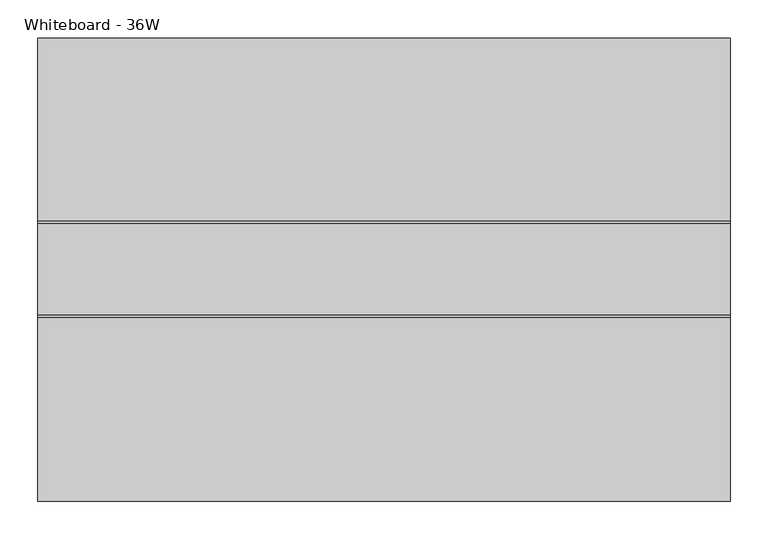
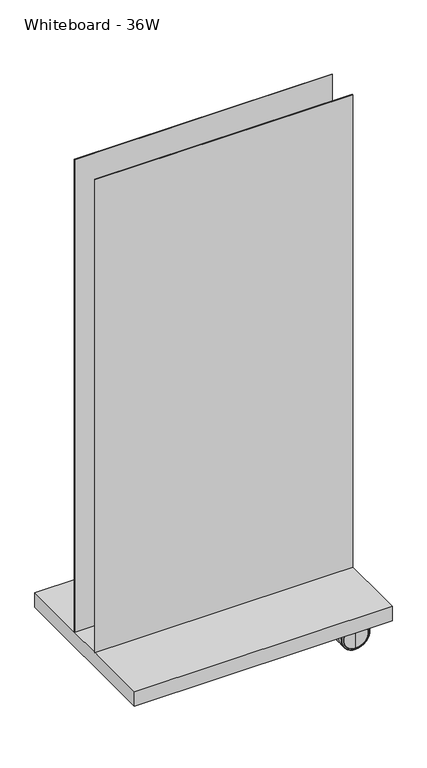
"""IFC4 building model written with IfcOpenShell, lengths in millimetres: furniture geometry, Steelcase Coalesse - Exponents - Storage - Mobile Display Board : Whiteboard - 36W."""

from ifc_helpers import new_model, si_unit, point, frame, frame_2d, origin, place, context, project, spatial, polyline, circle_curve, ellipse_curve, trimmed, segment, composite_curve, outline, extrude, faceted_brep, source, transform, mapped, element, save
from ifc_brep_helpers import plane_surface, cylinder_surface, revolved_surface, advanced_brep


def whiteboard_36w_4263d8d1(model_context):
    return source(origin(), model_context, "Body", "SolidModel", [
        extrude(outline(polyline([(914.4, 231.2568925), (0.0, 231.2568925), (0.0, 233.7968925), (914.4, 233.7968925), (914.4, 231.2568925)])), frame((0.0, 0.0, 155.2702), z_axis=(0.0, 0.0, 1.0), x_axis=(1.0, 0.0, 0.0)), (0.0, 0.0, 1.0), 1773.428),
        extrude(outline(polyline([(914.4, 109.3368683), (914.4, 106.7968683), (0.0, 106.7968683), (0.0, 109.3368683), (914.4, 109.3368683)])), frame((0.0, 0.0, 155.2702), z_axis=(0.0, 0.0, 1.0), x_axis=(1.0, 0.0, 0.0)), (0.0, 0.0, 1.0), 1773.428),
        advanced_brep(
        [(812.799997, -28.9699484, 93.7248565), (812.799997, -28.9699484, 7.16417), (812.799997, -28.9699484, 50.4445132), (812.799997, -29.195866, 95.950615), (812.799997, -29.195866, 4.9384115), (812.799997, -31.890984, 99.0695917), (812.799997, -31.890984, 1.8194348), (812.799997, -31.890984, 100.8890265), (812.799997, -31.890984, 0.0), (812.799997, -47.5881484, 100.8890265), (812.799997, -47.5881484, 0.0), (812.799997, -47.5881484, 67.9452274), (812.799997, -47.5881484, 32.943799), (812.799997, -51.5441984, 67.9452274), (812.799997, -51.5441984, 32.943799), (812.799997, -51.5441984, 50.4445132)],
        [
            (0, 1, circle_curve(frame((812.799997, -28.9699484, 50.4445132), z_axis=(0.0, 1.0, 0.0), x_axis=(0.0, 0.0, -1.0)), 43.2803433)),
            (1, 2),
            (2, 0),
            (1, 0, circle_curve(frame((812.799997, -28.9699484, 50.4445132), z_axis=(0.0, 1.0, 0.0), x_axis=(0.0, 0.0, -1.0)), 43.2803433)),
            (3, 4, circle_curve(frame((812.799997, -29.195866, 50.4445132), z_axis=(0.0, 1.0, 0.0), x_axis=(0.0, 0.0, -1.0)), 45.5061018)),
            (4, 1, circle_curve(frame((812.799997, -40.0470836, 7.16417), z_axis=(1.0, 0.0, 0.0), x_axis=(0.0, 1.0, 0.0)), 11.0771352)),
            (0, 3, circle_curve(frame((812.799997, -40.0470836, 93.7248565), z_axis=(1.0, 0.0, 0.0), x_axis=(0.0, 1.0, 0.0)), 11.0771352)),
            (4, 3, circle_curve(frame((812.799997, -29.195866, 50.4445132), z_axis=(0.0, 1.0, 0.0), x_axis=(0.0, 0.0, -1.0)), 45.5061018)),
            (5, 6, circle_curve(frame((812.799997, -31.890984, 50.4445132), z_axis=(0.0, 1.0, 0.0), x_axis=(0.0, 0.0, -1.0)), 48.6250784)),
            (6, 4, circle_curve(frame((812.799997, -33.3293578, 5.7862568), z_axis=(1.0, 0.0, 0.0), x_axis=(0.0, 1.0, 0.0)), 4.2195493)),
            (3, 5, circle_curve(frame((812.799997, -33.3293578, 95.1027696), z_axis=(1.0, 0.0, 0.0), x_axis=(0.0, 1.0, 0.0)), 4.2195493)),
            (6, 5, circle_curve(frame((812.799997, -31.890984, 50.4445132), z_axis=(0.0, 1.0, 0.0), x_axis=(0.0, 0.0, -1.0)), 48.6250784)),
            (7, 8, circle_curve(frame((812.799997, -31.890984, 50.4445132), z_axis=(0.0, 1.0, 0.0), x_axis=(0.0, 0.0, -1.0)), 50.4445132)),
            (8, 6),
            (5, 7),
            (8, 7, circle_curve(frame((812.799997, -31.890984, 50.4445132), z_axis=(0.0, 1.0, 0.0), x_axis=(0.0, 0.0, -1.0)), 50.4445132)),
            (9, 10, circle_curve(frame((812.799997, -47.5881484, 50.4445132), z_axis=(0.0, 1.0, 0.0), x_axis=(0.0, 0.0, -1.0)), 50.4445132)),
            (10, 8),
            (7, 9),
            (10, 9, circle_curve(frame((812.799997, -47.5881484, 50.4445132), z_axis=(0.0, 1.0, 0.0), x_axis=(0.0, 0.0, -1.0)), 50.4445132)),
            (11, 12, circle_curve(frame((812.799997, -47.5881484, 50.4445132), z_axis=(0.0, 1.0, 0.0), x_axis=(0.0, 0.0, -1.0)), 17.5007142)),
            (12, 10),
            (9, 11),
            (12, 11, circle_curve(frame((812.799997, -47.5881484, 50.4445132), z_axis=(0.0, 1.0, 0.0), x_axis=(0.0, 0.0, -1.0)), 17.5007142)),
            (13, 14, circle_curve(frame((812.799997, -51.5441984, 50.4445132), z_axis=(0.0, 1.0, 0.0), x_axis=(0.0, 0.0, -1.0)), 17.5007142)),
            (14, 12),
            (11, 13),
            (14, 13, circle_curve(frame((812.799997, -51.5441984, 50.4445132), z_axis=(0.0, 1.0, 0.0), x_axis=(0.0, 0.0, -1.0)), 17.5007142)),
            (15, 14),
            (13, 15),
        ],
        [
            plane_surface(frame((812.799997, -28.9699484, 50.4445132), z_axis=(0.0, 1.0, 0.0), x_axis=(0.0, 0.0, -1.0))),
            revolved_surface(trimmed(ellipse_curve(frame((812.799997, -40.0470836, 7.16417), z_axis=(-1.0, 0.0, 0.0), x_axis=(0.0, 1.0, 0.0)), 11.0771352, 11.0771352), [point((812.799997, -28.9699484, 7.16417))], [point((812.799997, -29.195866, 4.9384115))], True, "CARTESIAN"), (812.799997, -32.3354484, 50.4445132), (0.0, -1.0, 0.0)),
            revolved_surface(trimmed(ellipse_curve(frame((812.799997, -33.3293578, 5.7862568), z_axis=(-1.0, 0.0, 0.0), x_axis=(0.0, 1.0, 0.0)), 4.2195493, 4.2195493), [point((812.799997, -29.195866, 4.9384115))], [point((812.799997, -31.890984, 1.8194348))], True, "CARTESIAN"), (812.799997, -32.3354484, 50.4445132), (0.0, -1.0, 0.0)),
            plane_surface(frame((812.799997, -31.890984, 50.4445132), z_axis=(0.0, 1.0, 0.0), x_axis=(0.0, 0.0, -1.0))),
            cylinder_surface(frame((812.799997, -32.3354484, 50.4445132), z_axis=(0.0, -1.0, 0.0), x_axis=(0.0, 0.0, -1.0)), 50.4445132),
            plane_surface(frame((812.799997, -47.5881484, 50.4445132), z_axis=(0.0, -1.0, 0.0), x_axis=(0.0, 0.0, -1.0))),
            cylinder_surface(frame((812.799997, -32.3354484, 50.4445132), z_axis=(0.0, -1.0, 0.0), x_axis=(0.0, 0.0, -1.0)), 17.5007142),
            plane_surface(frame((812.799997, -51.5441984, 50.4445132), z_axis=(0.0, -1.0, 0.0), x_axis=(0.0, 0.0, -1.0))),
        ],
        [
            (0, [[1, 2, 3]]),
            (0, [[4, -3, -2]]),
            (1, [[5, 6, -1, 7]]),
            (1, [[8, -7, -4, -6]]),
            (2, [[9, 10, -5, 11]]),
            (2, [[12, -11, -8, -10]]),
            (3, [[13, 14, -9, 15]]),
            (3, [[16, -15, -12, -14]]),
            (4, [[17, 18, -13, 19]]),
            (4, [[20, -19, -16, -18]]),
            (5, [[21, 22, -17, 23]]),
            (5, [[24, -23, -20, -22]]),
            (6, [[25, 26, -21, 27]]),
            (6, [[28, -27, -24, -26]]),
            (7, [[29, -25, 30]]),
            (7, [[-30, -28, -29]]),
        ],
    ),
        extrude(outline(composite_curve([segment(polyline([(51.3715027, 843.0132923), (28.4632097, 843.0132923)]), True, "CONTINUOUS"), segment(trimmed(circle_curve(frame_2d((55.7451933, 810.6082185)), 42.360305), [point((28.4632097, 843.0132923))], [point((92.46506, 831.7280393))], False, "CARTESIAN"), True, "CONTINUOUS"), segment(trimmed(circle_curve(frame_2d((52.6047711, 812.6750938)), 44.1798299), [point((92.46506, 831.7280393))], [point((51.3715027, 768.5124804))], False, "CARTESIAN"), True, "CONTINUOUS"), segment(polyline([(51.3715027, 768.5124804), (51.3715027, 843.0132923)]), True, "CONTINUOUS")], self_intersect=False)), frame((0.0, -71.1936132, 0.0), z_axis=(0.0, 1.0, 0.0), x_axis=(0.0, 0.0, 1.0)), (0.0, 0.0, 1.0), 23.6054648),
        extrude(outline(composite_curve([segment(trimmed(circle_curve(frame_2d((798.4846799, -59.3908808)), 7.6088517), [point((798.4846799, -51.7820291))], [point((798.4846799, -66.9997325))], False, "CARTESIAN"), True, "CONTINUOUS"), segment(trimmed(circle_curve(frame_2d((798.4846799, -59.3908808)), 7.6088517), [point((798.4846799, -66.9997325))], [point((798.4846799, -51.7820291))], False, "CARTESIAN"), True, "CONTINUOUS")], self_intersect=False)), frame((0.0, 0.0, 71.2879049), z_axis=(0.0, 0.0, 1.0), x_axis=(1.0, 0.0, 0.0)), (0.0, 0.0, 1.0), 48.3206977),
        extrude(outline(polyline([(826.1222923, -86.9387325), (771.0042923, -86.9387325), (771.0042923, -31.8207325), (826.1222923, -31.8207325), (826.1222923, -86.9387325)])), frame((0.0, 0.0, 119.6086027), z_axis=(0.0, 0.0, 1.0), x_axis=(1.0, 0.0, 0.0)), (0.0, 0.0, 1.0), 3.302),
        advanced_brep(
        [(812.799997, -67.2375632, 67.9452274), (812.799997, -67.2375632, 32.943799), (812.799997, -67.2375632, 50.4445132), (812.799997, -71.1936132, 67.9452274), (812.799997, -71.1936132, 32.943799), (812.799997, -71.1936132, 100.8890265), (812.799997, -71.1936132, 0.0), (812.799997, -86.8907776, 100.8890265), (812.799997, -86.8907776, 0.0), (812.799997, -86.8907776, 99.0695917), (812.799997, -86.8907776, 1.8194348), (812.799997, -89.5858956, 95.950615), (812.799997, -89.5858956, 4.9384115), (812.799997, -89.8118132, 93.7248565), (812.799997, -89.8118132, 7.16417), (812.799997, -89.8118132, 50.4445132)],
        [
            (0, 1, circle_curve(frame((812.799997, -67.2375632, 50.4445132), z_axis=(0.0, 1.0, 0.0), x_axis=(0.0, 0.0, -1.0)), 17.5007142)),
            (1, 2),
            (2, 0),
            (1, 0, circle_curve(frame((812.799997, -67.2375632, 50.4445132), z_axis=(0.0, 1.0, 0.0), x_axis=(0.0, 0.0, -1.0)), 17.5007142)),
            (3, 4, circle_curve(frame((812.799997, -71.1936132, 50.4445132), z_axis=(0.0, 1.0, 0.0), x_axis=(0.0, 0.0, -1.0)), 17.5007142)),
            (4, 1),
            (0, 3),
            (4, 3, circle_curve(frame((812.799997, -71.1936132, 50.4445132), z_axis=(0.0, 1.0, 0.0), x_axis=(0.0, 0.0, -1.0)), 17.5007142)),
            (5, 6, circle_curve(frame((812.799997, -71.1936132, 50.4445132), z_axis=(0.0, 1.0, 0.0), x_axis=(0.0, 0.0, -1.0)), 50.4445132)),
            (6, 4),
            (3, 5),
            (6, 5, circle_curve(frame((812.799997, -71.1936132, 50.4445132), z_axis=(0.0, 1.0, 0.0), x_axis=(0.0, 0.0, -1.0)), 50.4445132)),
            (7, 8, circle_curve(frame((812.799997, -86.8907776, 50.4445132), z_axis=(0.0, 1.0, 0.0), x_axis=(0.0, 0.0, -1.0)), 50.4445132)),
            (8, 6),
            (5, 7),
            (8, 7, circle_curve(frame((812.799997, -86.8907776, 50.4445132), z_axis=(0.0, 1.0, 0.0), x_axis=(0.0, 0.0, -1.0)), 50.4445132)),
            (9, 10, circle_curve(frame((812.799997, -86.8907776, 50.4445132), z_axis=(0.0, 1.0, 0.0), x_axis=(0.0, 0.0, -1.0)), 48.6250784)),
            (10, 8),
            (7, 9),
            (10, 9, circle_curve(frame((812.799997, -86.8907776, 50.4445132), z_axis=(0.0, 1.0, 0.0), x_axis=(0.0, 0.0, -1.0)), 48.6250784)),
            (11, 12, circle_curve(frame((812.799997, -89.5858956, 50.4445132), z_axis=(0.0, 1.0, 0.0), x_axis=(0.0, 0.0, -1.0)), 45.5061018)),
            (12, 10, circle_curve(frame((812.799997, -85.4524038, 5.7862568), z_axis=(1.0, 0.0, 0.0), x_axis=(0.0, 1.0, 0.0)), 4.2195493)),
            (9, 11, circle_curve(frame((812.799997, -85.4524038, 95.1027696), z_axis=(1.0, 0.0, 0.0), x_axis=(0.0, 1.0, 0.0)), 4.2195493)),
            (12, 11, circle_curve(frame((812.799997, -89.5858956, 50.4445132), z_axis=(0.0, 1.0, 0.0), x_axis=(0.0, 0.0, -1.0)), 45.5061018)),
            (13, 14, circle_curve(frame((812.799997, -89.8118132, 50.4445132), z_axis=(0.0, 1.0, 0.0), x_axis=(0.0, 0.0, -1.0)), 43.2803433)),
            (14, 12, circle_curve(frame((812.799997, -78.734678, 7.16417), z_axis=(1.0, 0.0, 0.0), x_axis=(0.0, 1.0, 0.0)), 11.0771352)),
            (11, 13, circle_curve(frame((812.799997, -78.734678, 93.7248565), z_axis=(1.0, 0.0, 0.0), x_axis=(0.0, 1.0, 0.0)), 11.0771352)),
            (14, 13, circle_curve(frame((812.799997, -89.8118132, 50.4445132), z_axis=(0.0, 1.0, 0.0), x_axis=(0.0, 0.0, -1.0)), 43.2803433)),
            (15, 14),
            (13, 15),
        ],
        [
            plane_surface(frame((812.799997, -67.2375632, 50.4445132), z_axis=(0.0, 1.0, 0.0), x_axis=(0.0, 0.0, -1.0))),
            cylinder_surface(frame((812.799997, -86.4463132, 50.4445132), z_axis=(0.0, -1.0, 0.0), x_axis=(0.0, 0.0, -1.0)), 17.5007142),
            plane_surface(frame((812.799997, -71.1936132, 50.4445132), z_axis=(0.0, 1.0, 0.0), x_axis=(0.0, 0.0, -1.0))),
            cylinder_surface(frame((812.799997, -86.4463132, 50.4445132), z_axis=(0.0, -1.0, 0.0), x_axis=(0.0, 0.0, -1.0)), 50.4445132),
            plane_surface(frame((812.799997, -86.8907776, 50.4445132), z_axis=(0.0, -1.0, 0.0), x_axis=(0.0, 0.0, -1.0))),
            revolved_surface(trimmed(ellipse_curve(frame((812.799997, -85.4524038, 5.7862568), z_axis=(-1.0, 0.0, 0.0), x_axis=(0.0, 1.0, 0.0)), 4.2195493, 4.2195493), [point((812.799997, -86.8907776, 1.8194348))], [point((812.799997, -89.5858956, 4.9384115))], True, "CARTESIAN"), (812.799997, -86.4463132, 50.4445132), (0.0, -1.0, 0.0)),
            revolved_surface(trimmed(ellipse_curve(frame((812.799997, -78.734678, 7.16417), z_axis=(-1.0, 0.0, 0.0), x_axis=(0.0, 1.0, 0.0)), 11.0771352, 11.0771352), [point((812.799997, -89.5858956, 4.9384115))], [point((812.799997, -89.8118132, 7.16417))], True, "CARTESIAN"), (812.799997, -86.4463132, 50.4445132), (0.0, -1.0, 0.0)),
            plane_surface(frame((812.799997, -89.8118132, 50.4445132), z_axis=(0.0, -1.0, 0.0), x_axis=(0.0, 0.0, -1.0))),
        ],
        [
            (0, [[1, 2, 3]]),
            (0, [[4, -3, -2]]),
            (1, [[5, 6, -1, 7]]),
            (1, [[8, -7, -4, -6]]),
            (2, [[9, 10, -5, 11]]),
            (2, [[12, -11, -8, -10]]),
            (3, [[13, 14, -9, 15]]),
            (3, [[16, -15, -12, -14]]),
            (4, [[17, 18, -13, 19]]),
            (4, [[20, -19, -16, -18]]),
            (5, [[21, 22, -17, 23]]),
            (5, [[24, -23, -20, -22]]),
            (6, [[25, 26, -21, 27]]),
            (6, [[28, -27, -24, -26]]),
            (7, [[29, -25, 30]]),
            (7, [[-30, -28, -29]]),
        ],
    ),
        advanced_brep(
        [(812.799997, 392.1379592, 67.9452274), (812.799997, 392.1379592, 32.943799), (812.799997, 392.1379592, 50.4445132), (812.799997, 388.1819092, 67.9452274), (812.799997, 388.1819092, 32.943799), (812.799997, 388.1819092, 100.8890265), (812.799997, 388.1819092, 0.0), (812.799997, 372.4847448, 100.8890265), (812.799997, 372.4847448, 0.0), (812.799997, 372.4847448, 99.0695917), (812.799997, 372.4847448, 1.8194348), (812.799997, 369.7896268, 95.950615), (812.799997, 369.7896268, 4.9384115), (812.799997, 369.5637092, 93.7248565), (812.799997, 369.5637092, 7.16417), (812.799997, 369.5637092, 50.4445132)],
        [
            (0, 1, circle_curve(frame((812.799997, 392.1379592, 50.4445132), z_axis=(0.0, 1.0, 0.0), x_axis=(0.0, 0.0, -1.0)), 17.5007142)),
            (1, 2),
            (2, 0),
            (1, 0, circle_curve(frame((812.799997, 392.1379592, 50.4445132), z_axis=(0.0, 1.0, 0.0), x_axis=(0.0, 0.0, -1.0)), 17.5007142)),
            (3, 4, circle_curve(frame((812.799997, 388.1819092, 50.4445132), z_axis=(0.0, 1.0, 0.0), x_axis=(0.0, 0.0, -1.0)), 17.5007142)),
            (4, 1),
            (0, 3),
            (4, 3, circle_curve(frame((812.799997, 388.1819092, 50.4445132), z_axis=(0.0, 1.0, 0.0), x_axis=(0.0, 0.0, -1.0)), 17.5007142)),
            (5, 6, circle_curve(frame((812.799997, 388.1819092, 50.4445132), z_axis=(0.0, 1.0, 0.0), x_axis=(0.0, 0.0, -1.0)), 50.4445132)),
            (6, 4),
            (3, 5),
            (6, 5, circle_curve(frame((812.799997, 388.1819092, 50.4445132), z_axis=(0.0, 1.0, 0.0), x_axis=(0.0, 0.0, -1.0)), 50.4445132)),
            (7, 8, circle_curve(frame((812.799997, 372.4847448, 50.4445132), z_axis=(0.0, 1.0, 0.0), x_axis=(0.0, 0.0, -1.0)), 50.4445132)),
            (8, 6),
            (5, 7),
            (8, 7, circle_curve(frame((812.799997, 372.4847448, 50.4445132), z_axis=(0.0, 1.0, 0.0), x_axis=(0.0, 0.0, -1.0)), 50.4445132)),
            (9, 10, circle_curve(frame((812.799997, 372.4847448, 50.4445132), z_axis=(0.0, 1.0, 0.0), x_axis=(0.0, 0.0, -1.0)), 48.6250784)),
            (10, 8),
            (7, 9),
            (10, 9, circle_curve(frame((812.799997, 372.4847448, 50.4445132), z_axis=(0.0, 1.0, 0.0), x_axis=(0.0, 0.0, -1.0)), 48.6250784)),
            (11, 12, circle_curve(frame((812.799997, 369.7896268, 50.4445132), z_axis=(0.0, 1.0, 0.0), x_axis=(0.0, 0.0, -1.0)), 45.5061018)),
            (12, 10, circle_curve(frame((812.799997, 373.9231187, 5.7862568), z_axis=(1.0, 0.0, 0.0), x_axis=(0.0, 1.0, 0.0)), 4.2195493)),
            (9, 11, circle_curve(frame((812.799997, 373.9231187, 95.1027696), z_axis=(1.0, 0.0, 0.0), x_axis=(0.0, 1.0, 0.0)), 4.2195493)),
            (12, 11, circle_curve(frame((812.799997, 369.7896268, 50.4445132), z_axis=(0.0, 1.0, 0.0), x_axis=(0.0, 0.0, -1.0)), 45.5061018)),
            (13, 14, circle_curve(frame((812.799997, 369.5637092, 50.4445132), z_axis=(0.0, 1.0, 0.0), x_axis=(0.0, 0.0, -1.0)), 43.2803433)),
            (14, 12, circle_curve(frame((812.799997, 380.6408444, 7.16417), z_axis=(1.0, 0.0, 0.0), x_axis=(0.0, 1.0, 0.0)), 11.0771352)),
            (11, 13, circle_curve(frame((812.799997, 380.6408444, 93.7248565), z_axis=(1.0, 0.0, 0.0), x_axis=(0.0, 1.0, 0.0)), 11.0771352)),
            (14, 13, circle_curve(frame((812.799997, 369.5637092, 50.4445132), z_axis=(0.0, 1.0, 0.0), x_axis=(0.0, 0.0, -1.0)), 43.2803433)),
            (15, 14),
            (13, 15),
        ],
        [
            plane_surface(frame((812.799997, 392.1379592, 50.4445132), z_axis=(0.0, 1.0, 0.0), x_axis=(0.0, 0.0, -1.0))),
            cylinder_surface(frame((812.799997, 372.9292092, 50.4445132), z_axis=(0.0, -1.0, 0.0), x_axis=(0.0, 0.0, -1.0)), 17.5007142),
            plane_surface(frame((812.799997, 388.1819092, 50.4445132), z_axis=(0.0, 1.0, 0.0), x_axis=(0.0, 0.0, -1.0))),
            cylinder_surface(frame((812.799997, 372.9292092, 50.4445132), z_axis=(0.0, -1.0, 0.0), x_axis=(0.0, 0.0, -1.0)), 50.4445132),
            plane_surface(frame((812.799997, 372.4847448, 50.4445132), z_axis=(0.0, -1.0, 0.0), x_axis=(0.0, 0.0, -1.0))),
            revolved_surface(trimmed(ellipse_curve(frame((812.799997, 373.9231187, 5.7862568), z_axis=(-1.0, 0.0, 0.0), x_axis=(0.0, 1.0, 0.0)), 4.2195493, 4.2195493), [point((812.799997, 372.4847448, 1.8194348))], [point((812.799997, 369.7896268, 4.9384115))], True, "CARTESIAN"), (812.799997, 372.9292092, 50.4445132), (0.0, -1.0, 0.0)),
            revolved_surface(trimmed(ellipse_curve(frame((812.799997, 380.6408444, 7.16417), z_axis=(-1.0, 0.0, 0.0), x_axis=(0.0, 1.0, 0.0)), 11.0771352, 11.0771352), [point((812.799997, 369.7896268, 4.9384115))], [point((812.799997, 369.5637092, 7.16417))], True, "CARTESIAN"), (812.799997, 372.9292092, 50.4445132), (0.0, -1.0, 0.0)),
            plane_surface(frame((812.799997, 369.5637092, 50.4445132), z_axis=(0.0, -1.0, 0.0), x_axis=(0.0, 0.0, -1.0))),
        ],
        [
            (0, [[1, 2, 3]]),
            (0, [[4, -3, -2]]),
            (1, [[5, 6, -1, 7]]),
            (1, [[8, -7, -4, -6]]),
            (2, [[9, 10, -5, 11]]),
            (2, [[12, -11, -8, -10]]),
            (3, [[13, 14, -9, 15]]),
            (3, [[16, -15, -12, -14]]),
            (4, [[17, 18, -13, 19]]),
            (4, [[20, -19, -16, -18]]),
            (5, [[21, 22, -17, 23]]),
            (5, [[24, -23, -20, -22]]),
            (6, [[25, 26, -21, 27]]),
            (6, [[28, -27, -24, -26]]),
            (7, [[29, -25, 30]]),
            (7, [[-30, -28, -29]]),
        ],
    ),
        extrude(outline(composite_curve([segment(polyline([(51.3715027, 843.0132923), (28.4632097, 843.0132923)]), True, "CONTINUOUS"), segment(trimmed(circle_curve(frame_2d((55.7451933, 810.6082185)), 42.360305), [point((28.4632097, 843.0132923))], [point((92.46506, 831.7280393))], False, "CARTESIAN"), True, "CONTINUOUS"), segment(trimmed(circle_curve(frame_2d((52.6047711, 812.6750938)), 44.1798299), [point((92.46506, 831.7280393))], [point((51.3715027, 768.5124804))], False, "CARTESIAN"), True, "CONTINUOUS"), segment(polyline([(51.3715027, 768.5124804), (51.3715027, 843.0132923)]), True, "CONTINUOUS")], self_intersect=False)), frame((0.0, 388.1819092, 0.0), z_axis=(0.0, 1.0, 0.0), x_axis=(0.0, 0.0, 1.0)), (0.0, 0.0, 1.0), 23.6054648),
        extrude(outline(composite_curve([segment(trimmed(circle_curve(frame_2d((798.4846799, 399.9846416)), 7.6088517), [point((798.4846799, 392.3757899))], [point((798.4846799, 407.5934933))], False, "CARTESIAN"), True, "CONTINUOUS"), segment(trimmed(circle_curve(frame_2d((798.4846799, 399.9846416)), 7.6088517), [point((798.4846799, 407.5934933))], [point((798.4846799, 392.3757899))], False, "CARTESIAN"), True, "CONTINUOUS")], self_intersect=False)), frame((0.0, 0.0, 71.2879049), z_axis=(0.0, 0.0, 1.0), x_axis=(1.0, 0.0, 0.0)), (0.0, 0.0, 1.0), 48.3206977),
        extrude(outline(polyline([(826.1222923, 427.5324933), (826.1222923, 372.4144933), (771.0042923, 372.4144933), (771.0042923, 427.5324933), (826.1222923, 427.5324933)])), frame((0.0, 0.0, 119.6086027), z_axis=(0.0, 0.0, 1.0), x_axis=(1.0, 0.0, 0.0)), (0.0, 0.0, 1.0), 3.302),
        advanced_brep(
        [(812.799997, 430.405574, 93.7248565), (812.799997, 430.405574, 7.16417), (812.799997, 430.405574, 50.4445132), (812.799997, 430.1796564, 95.950615), (812.799997, 430.1796564, 4.9384115), (812.799997, 427.4845384, 99.0695917), (812.799997, 427.4845384, 1.8194348), (812.799997, 427.4845384, 100.8890265), (812.799997, 427.4845384, 0.0), (812.799997, 411.787374, 100.8890265), (812.799997, 411.787374, 0.0), (812.799997, 411.787374, 67.9452274), (812.799997, 411.787374, 32.943799), (812.799997, 407.831324, 67.9452274), (812.799997, 407.831324, 32.943799), (812.799997, 407.831324, 50.4445132)],
        [
            (0, 1, circle_curve(frame((812.799997, 430.405574, 50.4445132), z_axis=(0.0, 1.0, 0.0), x_axis=(0.0, 0.0, -1.0)), 43.2803433)),
            (1, 2),
            (2, 0),
            (1, 0, circle_curve(frame((812.799997, 430.405574, 50.4445132), z_axis=(0.0, 1.0, 0.0), x_axis=(0.0, 0.0, -1.0)), 43.2803433)),
            (3, 4, circle_curve(frame((812.799997, 430.1796564, 50.4445132), z_axis=(0.0, 1.0, 0.0), x_axis=(0.0, 0.0, -1.0)), 45.5061018)),
            (4, 1, circle_curve(frame((812.799997, 419.3284388, 7.16417), z_axis=(1.0, 0.0, 0.0), x_axis=(0.0, 1.0, 0.0)), 11.0771352)),
            (0, 3, circle_curve(frame((812.799997, 419.3284388, 93.7248565), z_axis=(1.0, 0.0, 0.0), x_axis=(0.0, 1.0, 0.0)), 11.0771352)),
            (4, 3, circle_curve(frame((812.799997, 430.1796564, 50.4445132), z_axis=(0.0, 1.0, 0.0), x_axis=(0.0, 0.0, -1.0)), 45.5061018)),
            (5, 6, circle_curve(frame((812.799997, 427.4845384, 50.4445132), z_axis=(0.0, 1.0, 0.0), x_axis=(0.0, 0.0, -1.0)), 48.6250784)),
            (6, 4, circle_curve(frame((812.799997, 426.0461646, 5.7862568), z_axis=(1.0, 0.0, 0.0), x_axis=(0.0, 1.0, 0.0)), 4.2195493)),
            (3, 5, circle_curve(frame((812.799997, 426.0461646, 95.1027696), z_axis=(1.0, 0.0, 0.0), x_axis=(0.0, 1.0, 0.0)), 4.2195493)),
            (6, 5, circle_curve(frame((812.799997, 427.4845384, 50.4445132), z_axis=(0.0, 1.0, 0.0), x_axis=(0.0, 0.0, -1.0)), 48.6250784)),
            (7, 8, circle_curve(frame((812.799997, 427.4845384, 50.4445132), z_axis=(0.0, 1.0, 0.0), x_axis=(0.0, 0.0, -1.0)), 50.4445132)),
            (8, 6),
            (5, 7),
            (8, 7, circle_curve(frame((812.799997, 427.4845384, 50.4445132), z_axis=(0.0, 1.0, 0.0), x_axis=(0.0, 0.0, -1.0)), 50.4445132)),
            (9, 10, circle_curve(frame((812.799997, 411.787374, 50.4445132), z_axis=(0.0, 1.0, 0.0), x_axis=(0.0, 0.0, -1.0)), 50.4445132)),
            (10, 8),
            (7, 9),
            (10, 9, circle_curve(frame((812.799997, 411.787374, 50.4445132), z_axis=(0.0, 1.0, 0.0), x_axis=(0.0, 0.0, -1.0)), 50.4445132)),
            (11, 12, circle_curve(frame((812.799997, 411.787374, 50.4445132), z_axis=(0.0, 1.0, 0.0), x_axis=(0.0, 0.0, -1.0)), 17.5007142)),
            (12, 10),
            (9, 11),
            (12, 11, circle_curve(frame((812.799997, 411.787374, 50.4445132), z_axis=(0.0, 1.0, 0.0), x_axis=(0.0, 0.0, -1.0)), 17.5007142)),
            (13, 14, circle_curve(frame((812.799997, 407.831324, 50.4445132), z_axis=(0.0, 1.0, 0.0), x_axis=(0.0, 0.0, -1.0)), 17.5007142)),
            (14, 12),
            (11, 13),
            (14, 13, circle_curve(frame((812.799997, 407.831324, 50.4445132), z_axis=(0.0, 1.0, 0.0), x_axis=(0.0, 0.0, -1.0)), 17.5007142)),
            (15, 14),
            (13, 15),
        ],
        [
            plane_surface(frame((812.799997, 430.405574, 50.4445132), z_axis=(0.0, 1.0, 0.0), x_axis=(0.0, 0.0, -1.0))),
            revolved_surface(trimmed(ellipse_curve(frame((812.799997, 419.3284388, 7.16417), z_axis=(-1.0, 0.0, 0.0), x_axis=(0.0, 1.0, 0.0)), 11.0771352, 11.0771352), [point((812.799997, 430.405574, 7.16417))], [point((812.799997, 430.1796564, 4.9384115))], True, "CARTESIAN"), (812.799997, 427.040074, 50.4445132), (0.0, -1.0, 0.0)),
            revolved_surface(trimmed(ellipse_curve(frame((812.799997, 426.0461646, 5.7862568), z_axis=(-1.0, 0.0, 0.0), x_axis=(0.0, 1.0, 0.0)), 4.2195493, 4.2195493), [point((812.799997, 430.1796564, 4.9384115))], [point((812.799997, 427.4845384, 1.8194348))], True, "CARTESIAN"), (812.799997, 427.040074, 50.4445132), (0.0, -1.0, 0.0)),
            plane_surface(frame((812.799997, 427.4845384, 50.4445132), z_axis=(0.0, 1.0, 0.0), x_axis=(0.0, 0.0, -1.0))),
            cylinder_surface(frame((812.799997, 427.040074, 50.4445132), z_axis=(0.0, -1.0, 0.0), x_axis=(0.0, 0.0, -1.0)), 50.4445132),
            plane_surface(frame((812.799997, 411.787374, 50.4445132), z_axis=(0.0, -1.0, 0.0), x_axis=(0.0, 0.0, -1.0))),
            cylinder_surface(frame((812.799997, 427.040074, 50.4445132), z_axis=(0.0, -1.0, 0.0), x_axis=(0.0, 0.0, -1.0)), 17.5007142),
            plane_surface(frame((812.799997, 407.831324, 50.4445132), z_axis=(0.0, -1.0, 0.0), x_axis=(0.0, 0.0, -1.0))),
        ],
        [
            (0, [[1, 2, 3]]),
            (0, [[4, -3, -2]]),
            (1, [[5, 6, -1, 7]]),
            (1, [[8, -7, -4, -6]]),
            (2, [[9, 10, -5, 11]]),
            (2, [[12, -11, -8, -10]]),
            (3, [[13, 14, -9, 15]]),
            (3, [[16, -15, -12, -14]]),
            (4, [[17, 18, -13, 19]]),
            (4, [[20, -19, -16, -18]]),
            (5, [[21, 22, -17, 23]]),
            (5, [[24, -23, -20, -22]]),
            (6, [[25, 26, -21, 27]]),
            (6, [[28, -27, -24, -26]]),
            (7, [[29, -25, 30]]),
            (7, [[-30, -28, -29]]),
        ],
    ),
        advanced_brep(
        [(121.6278984, 392.1379592, 67.9452274), (121.6278984, 392.1379592, 32.943799), (121.6278984, 392.1379592, 50.4445132), (121.6278984, 388.1819092, 67.9452274), (121.6278984, 388.1819092, 32.943799), (121.6278984, 388.1819092, 100.8890265), (121.6278984, 388.1819092, 0.0), (121.6278984, 372.4847448, 100.8890265), (121.6278984, 372.4847448, 0.0), (121.6278984, 372.4847448, 99.0695917), (121.6278984, 372.4847448, 1.8194348), (121.6278984, 369.7896268, 95.950615), (121.6278984, 369.7896268, 4.9384115), (121.6278984, 369.5637092, 93.7248565), (121.6278984, 369.5637092, 7.16417), (121.6278984, 369.5637092, 50.4445132)],
        [
            (0, 1, circle_curve(frame((121.6278984, 392.1379592, 50.4445132), z_axis=(0.0, 1.0, 0.0), x_axis=(0.0, 0.0, -1.0)), 17.5007142)),
            (1, 2),
            (2, 0),
            (1, 0, circle_curve(frame((121.6278984, 392.1379592, 50.4445132), z_axis=(0.0, 1.0, 0.0), x_axis=(0.0, 0.0, -1.0)), 17.5007142)),
            (3, 4, circle_curve(frame((121.6278984, 388.1819092, 50.4445132), z_axis=(0.0, 1.0, 0.0), x_axis=(0.0, 0.0, -1.0)), 17.5007142)),
            (4, 1),
            (0, 3),
            (4, 3, circle_curve(frame((121.6278984, 388.1819092, 50.4445132), z_axis=(0.0, 1.0, 0.0), x_axis=(0.0, 0.0, -1.0)), 17.5007142)),
            (5, 6, circle_curve(frame((121.6278984, 388.1819092, 50.4445132), z_axis=(0.0, 1.0, 0.0), x_axis=(0.0, 0.0, -1.0)), 50.4445132)),
            (6, 4),
            (3, 5),
            (6, 5, circle_curve(frame((121.6278984, 388.1819092, 50.4445132), z_axis=(0.0, 1.0, 0.0), x_axis=(0.0, 0.0, -1.0)), 50.4445132)),
            (7, 8, circle_curve(frame((121.6278984, 372.4847448, 50.4445132), z_axis=(0.0, 1.0, 0.0), x_axis=(0.0, 0.0, -1.0)), 50.4445132)),
            (8, 6),
            (5, 7),
            (8, 7, circle_curve(frame((121.6278984, 372.4847448, 50.4445132), z_axis=(0.0, 1.0, 0.0), x_axis=(0.0, 0.0, -1.0)), 50.4445132)),
            (9, 10, circle_curve(frame((121.6278984, 372.4847448, 50.4445132), z_axis=(0.0, 1.0, 0.0), x_axis=(0.0, 0.0, -1.0)), 48.6250784)),
            (10, 8),
            (7, 9),
            (10, 9, circle_curve(frame((121.6278984, 372.4847448, 50.4445132), z_axis=(0.0, 1.0, 0.0), x_axis=(0.0, 0.0, -1.0)), 48.6250784)),
            (11, 12, circle_curve(frame((121.6278984, 369.7896268, 50.4445132), z_axis=(0.0, 1.0, 0.0), x_axis=(0.0, 0.0, -1.0)), 45.5061018)),
            (12, 10, circle_curve(frame((121.6278984, 373.9231187, 5.7862568), z_axis=(1.0, 0.0, 0.0), x_axis=(0.0, -1.0, 0.0)), 4.2195493)),
            (9, 11, circle_curve(frame((121.6278984, 373.9231187, 95.1027696), z_axis=(1.0, 0.0, 0.0), x_axis=(0.0, -1.0, 0.0)), 4.2195493)),
            (12, 11, circle_curve(frame((121.6278984, 369.7896268, 50.4445132), z_axis=(0.0, 1.0, 0.0), x_axis=(0.0, 0.0, -1.0)), 45.5061018)),
            (13, 14, circle_curve(frame((121.6278984, 369.5637092, 50.4445132), z_axis=(0.0, 1.0, 0.0), x_axis=(0.0, 0.0, -1.0)), 43.2803433)),
            (14, 12, circle_curve(frame((121.6278984, 380.6408444, 7.16417), z_axis=(1.0, 0.0, 0.0), x_axis=(0.0, -1.0, 0.0)), 11.0771352)),
            (11, 13, circle_curve(frame((121.6278984, 380.6408444, 93.7248565), z_axis=(1.0, 0.0, 0.0), x_axis=(0.0, -1.0, 0.0)), 11.0771352)),
            (14, 13, circle_curve(frame((121.6278984, 369.5637092, 50.4445132), z_axis=(0.0, 1.0, 0.0), x_axis=(0.0, 0.0, -1.0)), 43.2803433)),
            (15, 14),
            (13, 15),
        ],
        [
            plane_surface(frame((121.6278984, 392.1379592, 50.4445132), z_axis=(0.0, 1.0, 0.0), x_axis=(0.0, 0.0, -1.0))),
            cylinder_surface(frame((121.6278984, 372.9292092, 50.4445132), z_axis=(0.0, -1.0, 0.0), x_axis=(0.0, 0.0, -1.0)), 17.5007142),
            plane_surface(frame((121.6278984, 388.1819092, 50.4445132), z_axis=(0.0, 1.0, 0.0), x_axis=(0.0, 0.0, -1.0))),
            cylinder_surface(frame((121.6278984, 372.9292092, 50.4445132), z_axis=(0.0, -1.0, 0.0), x_axis=(0.0, 0.0, -1.0)), 50.4445132),
            plane_surface(frame((121.6278984, 372.4847448, 50.4445132), z_axis=(0.0, -1.0, 0.0), x_axis=(0.0, 0.0, -1.0))),
            revolved_surface(trimmed(ellipse_curve(frame((121.6278984, 373.9231187, 5.7862568), z_axis=(-1.0, 0.0, 0.0), x_axis=(0.0, -1.0, 0.0)), 4.2195493, 4.2195493), [point((121.6278984, 372.4847448, 1.8194348))], [point((121.6278984, 369.7896268, 4.9384115))], True, "CARTESIAN"), (121.6278984, 372.9292092, 50.4445132), (0.0, -1.0, 0.0)),
            revolved_surface(trimmed(ellipse_curve(frame((121.6278984, 380.6408444, 7.16417), z_axis=(-1.0, 0.0, 0.0), x_axis=(0.0, -1.0, 0.0)), 11.0771352, 11.0771352), [point((121.6278984, 369.7896268, 4.9384115))], [point((121.6278984, 369.5637092, 7.16417))], True, "CARTESIAN"), (121.6278984, 372.9292092, 50.4445132), (0.0, -1.0, 0.0)),
            plane_surface(frame((121.6278984, 369.5637092, 50.4445132), z_axis=(0.0, -1.0, 0.0), x_axis=(0.0, 0.0, -1.0))),
        ],
        [
            (0, [[1, 2, 3]]),
            (0, [[4, -3, -2]]),
            (1, [[5, 6, -1, 7]]),
            (1, [[8, -7, -4, -6]]),
            (2, [[9, 10, -5, 11]]),
            (2, [[12, -11, -8, -10]]),
            (3, [[13, 14, -9, 15]]),
            (3, [[16, -15, -12, -14]]),
            (4, [[17, 18, -13, 19]]),
            (4, [[20, -19, -16, -18]]),
            (5, [[21, 22, -17, 23]]),
            (5, [[24, -23, -20, -22]]),
            (6, [[25, 26, -21, 27]]),
            (6, [[28, -27, -24, -26]]),
            (7, [[29, -25, 30]]),
            (7, [[-30, -28, -29]]),
        ],
    ),
        extrude(outline(composite_curve([segment(polyline([(51.3715027, 152.4507984), (28.4632097, 152.4507984)]), True, "CONTINUOUS"), segment(trimmed(circle_curve(frame_2d((55.7451933, 120.0457245)), 42.360305), [point((28.4632097, 152.4507984))], [point((92.46506, 141.1655453))], False, "CARTESIAN"), True, "CONTINUOUS"), segment(trimmed(circle_curve(frame_2d((52.6047711, 122.1125998)), 44.1798299), [point((92.46506, 141.1655453))], [point((51.3715027, 77.9499865))], False, "CARTESIAN"), True, "CONTINUOUS"), segment(polyline([(51.3715027, 77.9499865), (51.3715027, 152.4507984)]), True, "CONTINUOUS")], self_intersect=False)), frame((0.0, 388.1819092, 0.0), z_axis=(0.0, 1.0, 0.0), x_axis=(0.0, 0.0, 1.0)), (0.0, 0.0, 1.0), 23.6054648),
        extrude(outline(composite_curve([segment(trimmed(circle_curve(frame_2d((87.284686, 399.9846416)), 7.6088517), [point((87.284686, 392.3757899))], [point((87.284686, 407.5934933))], False, "CARTESIAN"), True, "CONTINUOUS"), segment(trimmed(circle_curve(frame_2d((87.284686, 399.9846416)), 7.6088517), [point((87.284686, 407.5934933))], [point((87.284686, 392.3757899))], False, "CARTESIAN"), True, "CONTINUOUS")], self_intersect=False)), frame((0.0, 0.0, 71.2879049), z_axis=(0.0, 0.0, 1.0), x_axis=(1.0, 0.0, 0.0)), (0.0, 0.0, 1.0), 48.3206977),
        extrude(outline(polyline([(114.9222984, 427.5324933), (114.9222984, 372.4144933), (59.8042984, 372.4144933), (59.8042984, 427.5324933), (114.9222984, 427.5324933)])), frame((0.0, 0.0, 119.6086027), z_axis=(0.0, 0.0, 1.0), x_axis=(1.0, 0.0, 0.0)), (0.0, 0.0, 1.0), 3.302),
        advanced_brep(
        [(121.6278984, 430.405574, 93.7248565), (121.6278984, 430.405574, 7.16417), (121.6278984, 430.405574, 50.4445132), (121.6278984, 430.1796564, 95.950615), (121.6278984, 430.1796564, 4.9384115), (121.6278984, 427.4845384, 99.0695917), (121.6278984, 427.4845384, 1.8194348), (121.6278984, 427.4845384, 100.8890265), (121.6278984, 427.4845384, 0.0), (121.6278984, 411.787374, 100.8890265), (121.6278984, 411.787374, 0.0), (121.6278984, 411.787374, 67.9452274), (121.6278984, 411.787374, 32.943799), (121.6278984, 407.831324, 67.9452274), (121.6278984, 407.831324, 32.943799), (121.6278984, 407.831324, 50.4445132)],
        [
            (0, 1, circle_curve(frame((121.6278984, 430.405574, 50.4445132), z_axis=(0.0, 1.0, 0.0), x_axis=(0.0, 0.0, -1.0)), 43.2803433)),
            (1, 2),
            (2, 0),
            (1, 0, circle_curve(frame((121.6278984, 430.405574, 50.4445132), z_axis=(0.0, 1.0, 0.0), x_axis=(0.0, 0.0, -1.0)), 43.2803433)),
            (3, 4, circle_curve(frame((121.6278984, 430.1796564, 50.4445132), z_axis=(0.0, 1.0, 0.0), x_axis=(0.0, 0.0, -1.0)), 45.5061018)),
            (4, 1, circle_curve(frame((121.6278984, 419.3284388, 7.16417), z_axis=(1.0, 0.0, 0.0), x_axis=(0.0, 1.0, 0.0)), 11.0771352)),
            (0, 3, circle_curve(frame((121.6278984, 419.3284388, 93.7248565), z_axis=(1.0, 0.0, 0.0), x_axis=(0.0, 1.0, 0.0)), 11.0771352)),
            (4, 3, circle_curve(frame((121.6278984, 430.1796564, 50.4445132), z_axis=(0.0, 1.0, 0.0), x_axis=(0.0, 0.0, -1.0)), 45.5061018)),
            (5, 6, circle_curve(frame((121.6278984, 427.4845384, 50.4445132), z_axis=(0.0, 1.0, 0.0), x_axis=(0.0, 0.0, -1.0)), 48.6250784)),
            (6, 4, circle_curve(frame((121.6278984, 426.0461646, 5.7862568), z_axis=(1.0, 0.0, 0.0), x_axis=(0.0, 1.0, 0.0)), 4.2195493)),
            (3, 5, circle_curve(frame((121.6278984, 426.0461646, 95.1027696), z_axis=(1.0, 0.0, 0.0), x_axis=(0.0, 1.0, 0.0)), 4.2195493)),
            (6, 5, circle_curve(frame((121.6278984, 427.4845384, 50.4445132), z_axis=(0.0, 1.0, 0.0), x_axis=(0.0, 0.0, -1.0)), 48.6250784)),
            (7, 8, circle_curve(frame((121.6278984, 427.4845384, 50.4445132), z_axis=(0.0, 1.0, 0.0), x_axis=(0.0, 0.0, -1.0)), 50.4445132)),
            (8, 6),
            (5, 7),
            (8, 7, circle_curve(frame((121.6278984, 427.4845384, 50.4445132), z_axis=(0.0, 1.0, 0.0), x_axis=(0.0, 0.0, -1.0)), 50.4445132)),
            (9, 10, circle_curve(frame((121.6278984, 411.787374, 50.4445132), z_axis=(0.0, 1.0, 0.0), x_axis=(0.0, 0.0, -1.0)), 50.4445132)),
            (10, 8),
            (7, 9),
            (10, 9, circle_curve(frame((121.6278984, 411.787374, 50.4445132), z_axis=(0.0, 1.0, 0.0), x_axis=(0.0, 0.0, -1.0)), 50.4445132)),
            (11, 12, circle_curve(frame((121.6278984, 411.787374, 50.4445132), z_axis=(0.0, 1.0, 0.0), x_axis=(0.0, 0.0, -1.0)), 17.5007142)),
            (12, 10),
            (9, 11),
            (12, 11, circle_curve(frame((121.6278984, 411.787374, 50.4445132), z_axis=(0.0, 1.0, 0.0), x_axis=(0.0, 0.0, -1.0)), 17.5007142)),
            (13, 14, circle_curve(frame((121.6278984, 407.831324, 50.4445132), z_axis=(0.0, 1.0, 0.0), x_axis=(0.0, 0.0, -1.0)), 17.5007142)),
            (14, 12),
            (11, 13),
            (14, 13, circle_curve(frame((121.6278984, 407.831324, 50.4445132), z_axis=(0.0, 1.0, 0.0), x_axis=(0.0, 0.0, -1.0)), 17.5007142)),
            (15, 14),
            (13, 15),
        ],
        [
            plane_surface(frame((121.6278984, 430.405574, 50.4445132), z_axis=(0.0, 1.0, 0.0), x_axis=(0.0, 0.0, -1.0))),
            revolved_surface(trimmed(ellipse_curve(frame((121.6278984, 419.3284388, 7.16417), z_axis=(-1.0, 0.0, 0.0), x_axis=(0.0, 1.0, 0.0)), 11.0771352, 11.0771352), [point((121.6278984, 430.405574, 7.16417))], [point((121.6278984, 430.1796564, 4.9384115))], True, "CARTESIAN"), (121.6278984, 427.040074, 50.4445132), (0.0, -1.0, 0.0)),
            revolved_surface(trimmed(ellipse_curve(frame((121.6278984, 426.0461646, 5.7862568), z_axis=(-1.0, 0.0, 0.0), x_axis=(0.0, 1.0, 0.0)), 4.2195493, 4.2195493), [point((121.6278984, 430.1796564, 4.9384115))], [point((121.6278984, 427.4845384, 1.8194348))], True, "CARTESIAN"), (121.6278984, 427.040074, 50.4445132), (0.0, -1.0, 0.0)),
            plane_surface(frame((121.6278984, 427.4845384, 50.4445132), z_axis=(0.0, 1.0, 0.0), x_axis=(0.0, 0.0, -1.0))),
            cylinder_surface(frame((121.6278984, 427.040074, 50.4445132), z_axis=(0.0, -1.0, 0.0), x_axis=(0.0, 0.0, -1.0)), 50.4445132),
            plane_surface(frame((121.6278984, 411.787374, 50.4445132), z_axis=(0.0, -1.0, 0.0), x_axis=(0.0, 0.0, -1.0))),
            cylinder_surface(frame((121.6278984, 427.040074, 50.4445132), z_axis=(0.0, -1.0, 0.0), x_axis=(0.0, 0.0, -1.0)), 17.5007142),
            plane_surface(frame((121.6278984, 407.831324, 50.4445132), z_axis=(0.0, -1.0, 0.0), x_axis=(0.0, 0.0, -1.0))),
        ],
        [
            (0, [[1, 2, 3]]),
            (0, [[4, -3, -2]]),
            (1, [[5, 6, -1, 7]]),
            (1, [[8, -7, -4, -6]]),
            (2, [[9, 10, -5, 11]]),
            (2, [[12, -11, -8, -10]]),
            (3, [[13, 14, -9, 15]]),
            (3, [[16, -15, -12, -14]]),
            (4, [[17, 18, -13, 19]]),
            (4, [[20, -19, -16, -18]]),
            (5, [[21, 22, -17, 23]]),
            (5, [[24, -23, -20, -22]]),
            (6, [[25, 26, -21, 27]]),
            (6, [[28, -27, -24, -26]]),
            (7, [[29, -25, 30]]),
            (7, [[-30, -28, -29]]),
        ],
    ),
        faceted_brep([(914.4, 476.0112868, 155.2702), (0.0, 476.0112868, 155.2702), (0.0, -135.417526, 155.2702), (914.4, -135.417526, 155.2702), (901.6999996, 454.6498863, 122.9106027), (901.6999996, -114.0561255, 122.9106027), (12.7000004, -114.0561255, 122.9106027), (12.7000004, 454.6498863, 122.9106027), (914.4, 476.0112868, 101.2952), (0.0, 476.0112868, 101.2952), (0.0, -135.417526, 101.2952), (914.4, -135.417526, 101.2952), (901.6999996, 454.6498863, 101.2952), (12.7000004, 454.6498863, 101.2952), (12.7000004, -114.0561255, 101.2952), (901.6999996, -114.0561255, 101.2952)], [[[0, 1, 2, 3]], [[4, 5, 6, 7]], [[1, 0, 8, 9]], [[2, 1, 9, 10]], [[3, 2, 10, 11]], [[8, 0, 3, 11]], [[8, 11, 10, 9], [12, 13, 14, 15]], [[12, 15, 5, 4]], [[15, 14, 6, 5]], [[14, 13, 7, 6]], [[13, 12, 4, 7]]]),
    ])


if __name__ == "__main__":
    model = new_model("IFC4")
    model_context = context("Model", 3, world=origin())
    ifc_project = project(units=[si_unit("LENGTHUNIT", "METRE", prefix="MILLI")], contexts=[model_context])
    site = spatial("IfcSite", under=ifc_project)
    building = spatial("IfcBuilding", under=site)
    placement = place(None, origin())
    whiteboard_36w_shape = whiteboard_36w_4263d8d1(model_context)
    element("IfcFurniture", 1, ObjectType="Steelcase Coalesse - Exponents - Storage - Mobile Display Board : Whiteboard - 36W", at=placement, inside=building, context=model_context, shape_type="MappedRepresentation", body=[
        mapped(whiteboard_36w_shape, transform((0.0, 0.0, 0.0), x_axis=(1.0, 0.0, 0.0), y_axis=(0.0, 1.0, 0.0), z_axis=(0.0, 0.0, 1.0))),
    ])
    save(model, "model.ifc")
